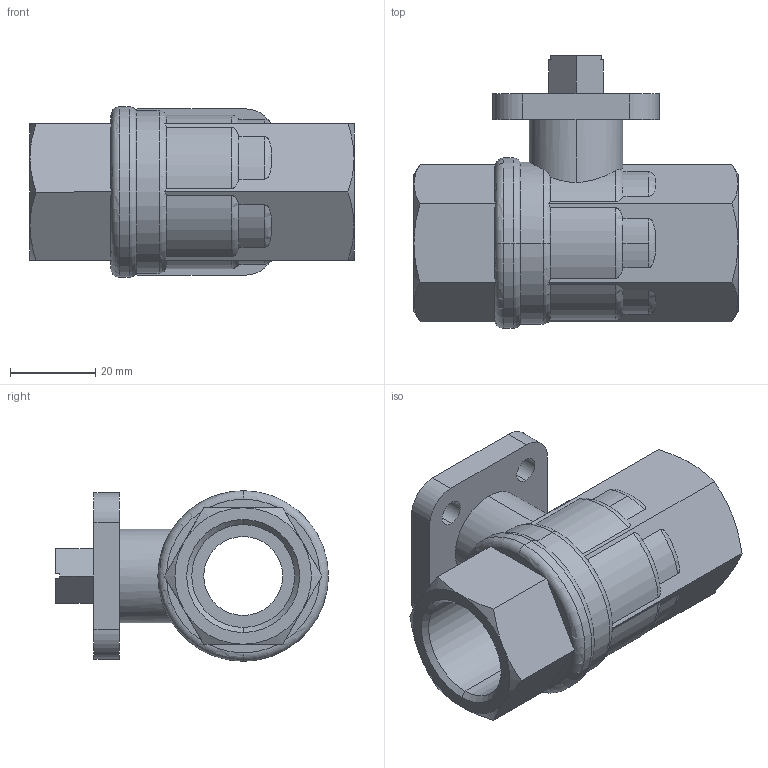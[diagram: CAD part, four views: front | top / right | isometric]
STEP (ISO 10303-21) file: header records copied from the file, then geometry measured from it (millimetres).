
FILE_DESCRIPTION (( 'STEP AP214' ), '1' );
FILE_NAME ('Ballvalve A25-DN20 G3_4.step', '2010-09-23T08:32:19', ( '' ), ( '' ), 'SwSTEP 2.0', 'SolidWorks 2010', '' );
FILE_SCHEMA (( 'AUTOMOTIVE_DESIGN' ));
Length unit declared in the file: millimetre
Products named in the file (1): Ballvalve A25-DN20 G3_4
Bounding box: 76 x 64 x 40 mm (x, y, z)
Volume: 58087 mm3; surface area: 19901 mm2
Topology: 1 solids, 1 shells, 115 faces, 298 edges, 190 vertices
Faces by surface type: cylinder 40, plane 38, torus 21, cone 16
Entity records: 4164 total; most frequent: CARTESIAN_POINT 1262, ORIENTED_EDGE 596, DIRECTION 568, EDGE_CURVE 298, AXIS2_PLACEMENT_3D 230, VERTEX_POINT 190, EDGE_LOOP 130, ADVANCED_FACE 115
